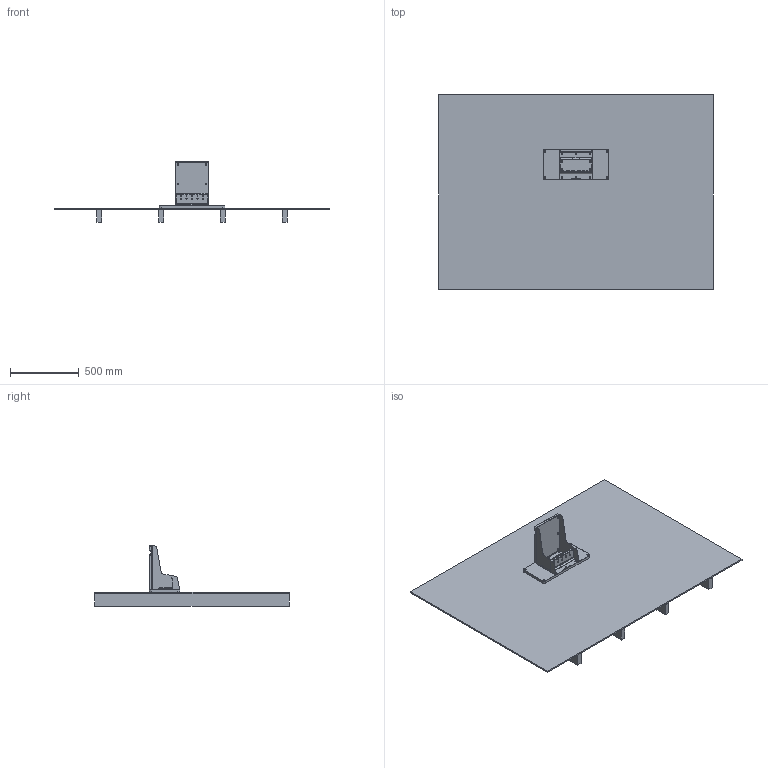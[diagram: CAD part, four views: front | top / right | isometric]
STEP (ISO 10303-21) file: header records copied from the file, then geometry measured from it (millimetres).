
FILE_DESCRIPTION (( 'STEP AP214' ), '1' );
FILE_NAME ('MONO_038-a100_02 (WALL SETUP).STEP', '2026-03-17T07:48:38', ( '' ), ( '' ), 'SwSTEP 2.0', 'SolidWorks 2024', '' );
FILE_SCHEMA (( 'AUTOMOTIVE_DESIGN' ));
Length unit declared in the file: millimetre
Products named in the file (14): Wall - Spaced Studs; MONO_038-p115; MONO_038-a120; MONO_038-a110; MONO_038-p101_Default<As Machined>; S-M6-1ZI; MONO_038-a100_02 (WALL SETUP); MONO_038-p111; 12G Countersunk Wood Screw; 12g (5.50mm) Pan Phillips (PH3) Self Tapping Screws; MONO_038-p102; M6 Threaded Wood Insert; M6 x 10mm BUT Head Screw_10mm; MONO_038-p112
Assembly tree (38 placements, depth 3):
  MONO_038-a100_02 (WALL SETUP)
    MONO_038-a110
      MONO_038-p111
      MONO_038-p112
      M6 Threaded Wood Insert  x6
    MONO_038-a120
      MONO_038-p101_Default<As Machined>
      S-M6-1ZI  x4
    MONO_038-p102
    12g (5.50mm) Pan Phillips (PH3) Self Tapping Screws  x6
    M6 x 10mm BUT Head Screw_10mm  x10
    Wall - Spaced Studs
    MONO_038-p115
    12G Countersunk Wood Screw  x4
Bounding box: 2000 x 1419 x 439 mm (x, y, z)
Volume: 50012506.7 mm3; surface area: 8097974.3 mm2
Topology: 40 solids, 64 shells, 1590 faces, 3912 edges, 2510 vertices
Faces by surface type: plane 1154, cylinder 234, cone 162, torus 18, sphere 16, bspline 6
Full cylindrical faces by diameter (mm): 4.5 x6, 5.5 x14, 6 x16, 6.5 x12, 7 x4, 8 x6, 8.75 x4, 10.3 x10, 10.9 x4
Entity records: 18949 total; most frequent: CARTESIAN_POINT 3507, DIRECTION 3110, ORIENTED_EDGE 2954, EDGE_CURVE 1477, LINE 1070, VECTOR 1070, AXIS2_PLACEMENT_3D 1020, VERTEX_POINT 981
